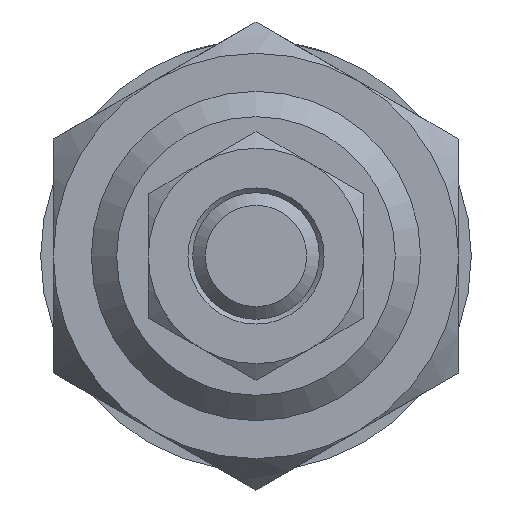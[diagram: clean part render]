
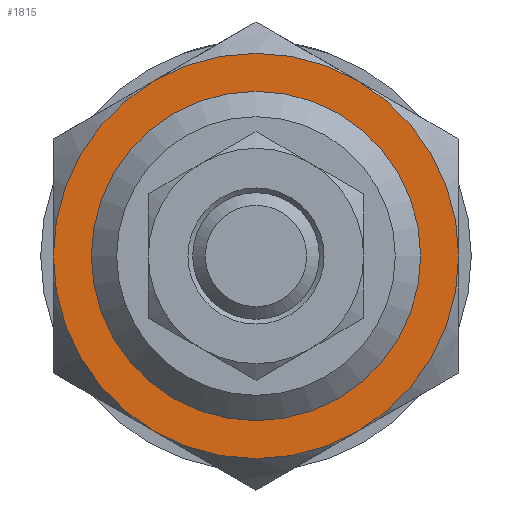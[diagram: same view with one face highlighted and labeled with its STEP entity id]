
A CAD part, front view. The second image highlights one B-rep face of the part: STEP entity #1815.
In plain terms, the highlighted planar face has unit normal (0, -1, 0).
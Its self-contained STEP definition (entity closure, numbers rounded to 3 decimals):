
#200=PLANE('',#1991);
#471=ORIENTED_EDGE('',*,*,#661,.T.);
#472=ORIENTED_EDGE('',*,*,#662,.T.);
#473=ORIENTED_EDGE('',*,*,#663,.T.);
#474=ORIENTED_EDGE('',*,*,#664,.T.);
#475=ORIENTED_EDGE('',*,*,#665,.T.);
#476=ORIENTED_EDGE('',*,*,#666,.T.);
#477=ORIENTED_EDGE('',*,*,#667,.T.);
#661=EDGE_CURVE('',#778,#778,#837,.T.);
#662=EDGE_CURVE('',#773,#777,#838,.F.);
#663=EDGE_CURVE('',#777,#779,#839,.F.);
#664=EDGE_CURVE('',#779,#760,#840,.F.);
#665=EDGE_CURVE('',#760,#765,#841,.F.);
#666=EDGE_CURVE('',#765,#769,#842,.F.);
#667=EDGE_CURVE('',#769,#773,#843,.F.);
#760=VERTEX_POINT('',#2779);
#765=VERTEX_POINT('',#2800);
#769=VERTEX_POINT('',#2819);
#773=VERTEX_POINT('',#2838);
#777=VERTEX_POINT('',#2857);
#778=VERTEX_POINT('',#2866);
#779=VERTEX_POINT('',#2869);
#837=CIRCLE('',#1992,12.75);
#838=CIRCLE('',#1993,16.);
#839=CIRCLE('',#1994,16.);
#840=CIRCLE('',#1995,16.);
#841=CIRCLE('',#1996,16.);
#842=CIRCLE('',#1997,16.);
#843=CIRCLE('',#1998,16.);
#961=EDGE_LOOP('',(#471));
#962=EDGE_LOOP('',(#472,#473,#474,#475,#476,#477));
#1093=FACE_BOUND('',#961,.T.);
#1094=FACE_BOUND('',#962,.T.);
#1815=ADVANCED_FACE('',(#1093,#1094),#200,.F.);
#1991=AXIS2_PLACEMENT_3D('',#2864,#2322,#2323);
#1992=AXIS2_PLACEMENT_3D('',#2865,#2324,#2325);
#1993=AXIS2_PLACEMENT_3D('',#2867,#2326,#2327);
#1994=AXIS2_PLACEMENT_3D('',#2868,#2328,#2329);
#1995=AXIS2_PLACEMENT_3D('',#2870,#2330,#2331);
#1996=AXIS2_PLACEMENT_3D('',#2871,#2332,#2333);
#1997=AXIS2_PLACEMENT_3D('',#2872,#2334,#2335);
#1998=AXIS2_PLACEMENT_3D('',#2873,#2336,#2337);
#2322=DIRECTION('',(0.,1.,0.));
#2323=DIRECTION('',(0.,0.,1.));
#2324=DIRECTION('',(0.,1.,0.));
#2325=DIRECTION('',(0.,0.,1.));
#2326=DIRECTION('',(0.,1.,0.));
#2327=DIRECTION('',(0.,0.,1.));
#2328=DIRECTION('',(0.,1.,0.));
#2329=DIRECTION('',(0.,0.,1.));
#2330=DIRECTION('',(0.,1.,0.));
#2331=DIRECTION('',(0.,0.,1.));
#2332=DIRECTION('',(0.,1.,0.));
#2333=DIRECTION('',(0.,0.,1.));
#2334=DIRECTION('',(0.,1.,0.));
#2335=DIRECTION('',(0.,0.,1.));
#2336=DIRECTION('',(0.,1.,0.));
#2337=DIRECTION('',(0.,0.,1.));
#2779=CARTESIAN_POINT('',(-8.,-8.,-13.856));
#2800=CARTESIAN_POINT('',(8.,-8.,-13.856));
#2819=CARTESIAN_POINT('',(16.,-8.,0.));
#2838=CARTESIAN_POINT('',(8.,-8.,13.856));
#2857=CARTESIAN_POINT('',(-8.,-8.,13.856));
#2864=CARTESIAN_POINT('',(0.,-8.,0.));
#2865=CARTESIAN_POINT('',(0.,-8.,0.));
#2866=CARTESIAN_POINT('',(0.,-8.,12.75));
#2867=CARTESIAN_POINT('',(0.,-8.,0.));
#2868=CARTESIAN_POINT('',(0.,-8.,0.));
#2869=CARTESIAN_POINT('',(-16.,-8.,0.));
#2870=CARTESIAN_POINT('',(0.,-8.,0.));
#2871=CARTESIAN_POINT('',(0.,-8.,0.));
#2872=CARTESIAN_POINT('',(0.,-8.,0.));
#2873=CARTESIAN_POINT('',(0.,-8.,0.));
